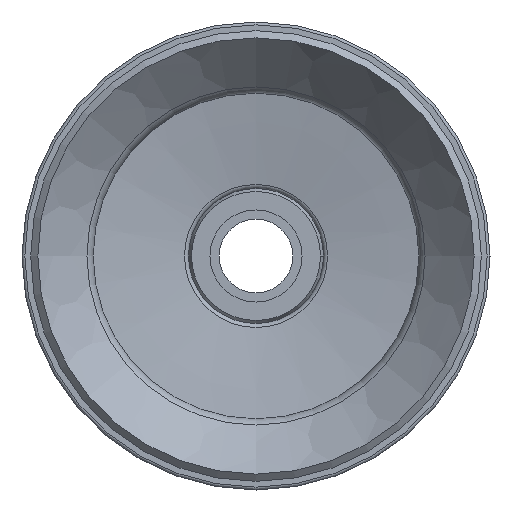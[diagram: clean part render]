
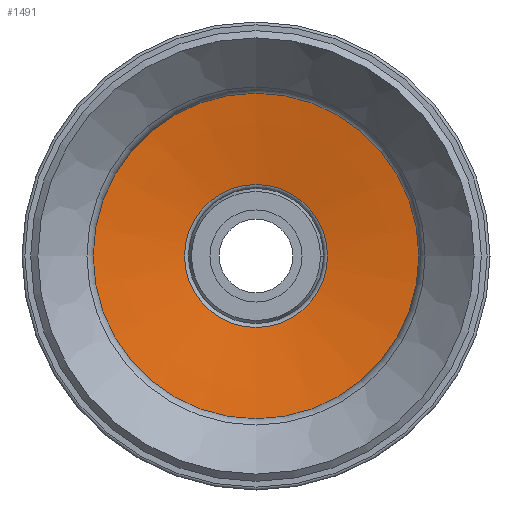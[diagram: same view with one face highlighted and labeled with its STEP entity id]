
A CAD part, front view. The second image highlights one B-rep face of the part: STEP entity #1491.
In plain terms, the highlighted conical face has half-angle 80.522 degrees and reference radius 7.758 mm.
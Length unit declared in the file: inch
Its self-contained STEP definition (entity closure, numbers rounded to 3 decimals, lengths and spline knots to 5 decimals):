
#115 = EDGE_CURVE ( 'NONE', #3002, #3002, #1882, .T. ) ;
#286 = DIRECTION ( 'NONE',  ( 0., 0., 1. ) ) ;
#383 = CARTESIAN_POINT ( 'NONE',  ( 0.3685, 3.93701, 0. ) ) ;
#387 = EDGE_LOOP ( 'NONE', ( #605 ) ) ;
#391 = CIRCLE ( 'NONE', #796, 0.84437 ) ;
#588 = DIRECTION ( 'NONE',  ( -1., 0., 0. ) ) ;
#605 = ORIENTED_EDGE ( 'NONE', *, *, #115, .T. ) ;
#698 = FACE_OUTER_BOUND ( 'NONE', #1584, .T. ) ;
#796 = AXIS2_PLACEMENT_3D ( 'NONE', #1115, #2342, #286 ) ;
#847 = EDGE_CURVE ( 'NONE', #2984, #2984, #391, .T. ) ;
#1077 = AXIS2_PLACEMENT_3D ( 'NONE', #383, #588, #1799 ) ;
#1115 = CARTESIAN_POINT ( 'NONE',  ( 0.45848, 3.93701, 0. ) ) ;
#1433 = CARTESIAN_POINT ( 'NONE',  ( 0.3685, 3.93701, 0. ) ) ;
#1488 = AXIS2_PLACEMENT_3D ( 'NONE', #1433, #2639, #2363 ) ;
#1491 = ADVANCED_FACE ( 'NONE', ( #2657, #698 ), #2731, .F. ) ;
#1584 = EDGE_LOOP ( 'NONE', ( #2742 ) ) ;
#1799 = DIRECTION ( 'NONE',  ( 0., 0., 1. ) ) ;
#1882 = CIRCLE ( 'NONE', #1077, 0.30544 ) ;
#2342 = DIRECTION ( 'NONE',  ( -1., 0., 0. ) ) ;
#2363 = DIRECTION ( 'NONE',  ( 0., 0., -1. ) ) ;
#2540 = CARTESIAN_POINT ( 'NONE',  ( 0.3685, 3.93701, 0.30544 ) ) ;
#2639 = DIRECTION ( 'NONE',  ( 1., 0., 0. ) ) ;
#2657 = FACE_BOUND ( 'NONE', #387, .T. ) ;
#2731 = CONICAL_SURFACE ( 'NONE', #1488, 0.30544, 1.405 ) ;
#2742 = ORIENTED_EDGE ( 'NONE', *, *, #847, .F. ) ;
#2755 = CARTESIAN_POINT ( 'NONE',  ( 0.45848, 3.93701, 0.84437 ) ) ;
#2984 = VERTEX_POINT ( 'NONE', #2755 ) ;
#3002 = VERTEX_POINT ( 'NONE', #2540 ) ;
